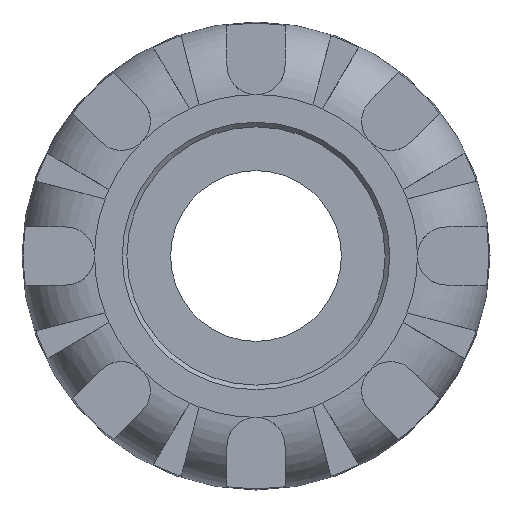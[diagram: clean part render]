
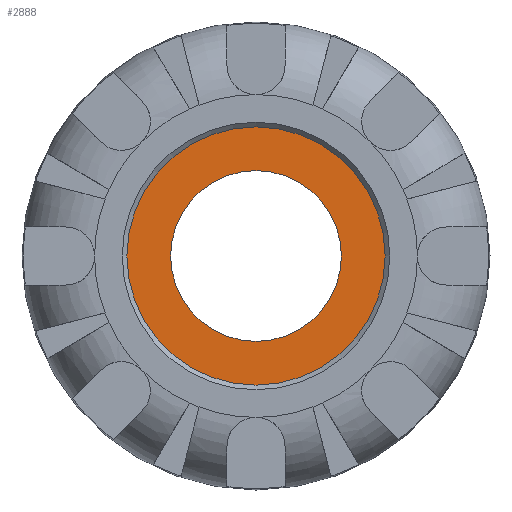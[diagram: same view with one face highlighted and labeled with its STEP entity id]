
A CAD part, left-side view. The second image highlights one B-rep face of the part: STEP entity #2888.
In plain terms, the highlighted planar face has unit normal (-1, 0, 0).
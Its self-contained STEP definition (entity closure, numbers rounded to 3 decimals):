
#37=FACE_BOUND('',#581,.T.);
#139=CIRCLE('',#3075,16.);
#186=CIRCLE('',#3197,10.583);
#399=FACE_OUTER_BOUND('',#580,.T.);
#580=EDGE_LOOP('',(#2450));
#581=EDGE_LOOP('',(#2451));
#1140=VERTEX_POINT('',#5313);
#1239=VERTEX_POINT('',#6433);
#1474=EDGE_CURVE('',#1140,#1140,#139,.T.);
#1643=EDGE_CURVE('',#1239,#1239,#186,.T.);
#2450=ORIENTED_EDGE('',*,*,#1474,.F.);
#2451=ORIENTED_EDGE('',*,*,#1643,.T.);
#2559=PLANE('',#3198);
#2888=ADVANCED_FACE('',(#399,#37),#2559,.T.);
#3075=AXIS2_PLACEMENT_3D('',#5314,#3645,#3646);
#3197=AXIS2_PLACEMENT_3D('',#6434,#3957,#3958);
#3198=AXIS2_PLACEMENT_3D('',#6435,#3959,#3960);
#3645=DIRECTION('center_axis',(1.,0.,0.));
#3646=DIRECTION('ref_axis',(0.,0.,-1.));
#3957=DIRECTION('center_axis',(1.,0.,0.));
#3958=DIRECTION('ref_axis',(0.,0.,-1.));
#3959=DIRECTION('center_axis',(-1.,0.,0.));
#3960=DIRECTION('ref_axis',(0.,0.,1.));
#5313=CARTESIAN_POINT('',(-1.,16.,0.));
#5314=CARTESIAN_POINT('Origin',(-1.,0.,
0.));
#6433=CARTESIAN_POINT('',(-1.,10.583,0.));
#6434=CARTESIAN_POINT('Origin',(-1.,0.,
0.));
#6435=CARTESIAN_POINT('Origin',(-1.,16.,0.));
